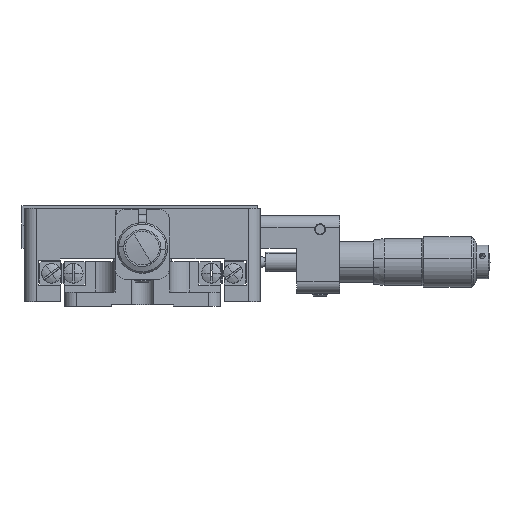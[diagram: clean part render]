
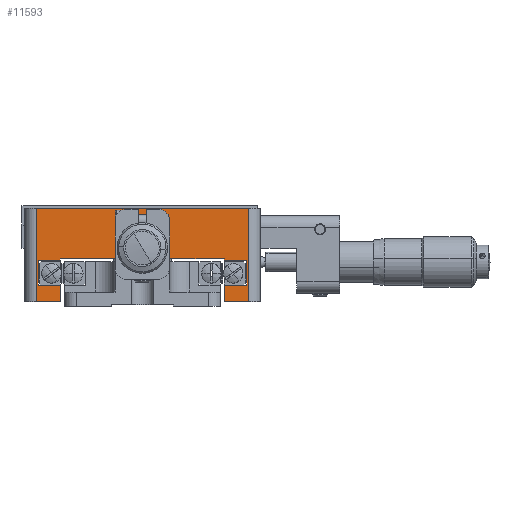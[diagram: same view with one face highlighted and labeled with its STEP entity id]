
A CAD part, left-side view. The second image highlights one B-rep face of the part: STEP entity #11593.
In plain terms, the highlighted planar face has unit normal (-1, 0, 0).
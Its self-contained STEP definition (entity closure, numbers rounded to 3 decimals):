
#26 = DIRECTION ( 'NONE',  ( 0., -1., 0. ) ) ;
#35 = ORIENTED_EDGE ( 'NONE', *, *, #8875, .T. ) ;
#280 = VERTEX_POINT ( 'NONE', #8238 ) ;
#323 = LINE ( 'NONE', #16755, #16178 ) ;
#490 = EDGE_CURVE ( 'NONE', #280, #25579, #25245, .T. ) ;
#604 = VECTOR ( 'NONE', #15052, 1000. ) ;
#620 = ORIENTED_EDGE ( 'NONE', *, *, #20196, .T. ) ;
#1090 = CARTESIAN_POINT ( 'NONE',  ( -29.221, 26.75, 11.8 ) ) ;
#1104 = EDGE_CURVE ( 'NONE', #24790, #21348, #24862, .T. ) ;
#1306 = CARTESIAN_POINT ( 'NONE',  ( -29.221, -21., 1.2 ) ) ;
#1473 = CARTESIAN_POINT ( 'NONE',  ( -29.221, -26.75, 5.5 ) ) ;
#1475 = DIRECTION ( 'NONE',  ( 0., 0., -1. ) ) ;
#3067 = EDGE_CURVE ( 'NONE', #9695, #18296, #11140, .T. ) ;
#3127 = CARTESIAN_POINT ( 'NONE',  ( -29.221, -21., 11.8 ) ) ;
#3132 = CARTESIAN_POINT ( 'NONE',  ( -29.221, -21., 11.8 ) ) ;
#3246 = CARTESIAN_POINT ( 'NONE',  ( -29.221, -27.25, 25.2 ) ) ;
#3430 = CARTESIAN_POINT ( 'NONE',  ( -29.221, 21., 12.2 ) ) ;
#3615 = CARTESIAN_POINT ( 'NONE',  ( -29.221, -27.25, 1.2 ) ) ;
#3642 = DIRECTION ( 'NONE',  ( 0., 0., -1. ) ) ;
#4261 = VECTOR ( 'NONE', #11872, 1000. ) ;
#4283 = ORIENTED_EDGE ( 'NONE', *, *, #8874, .T. ) ;
#4521 = LINE ( 'NONE', #20779, #7451 ) ;
#4595 = AXIS2_PLACEMENT_3D ( 'NONE', #26224, #13840, #1475 ) ;
#4684 = VECTOR ( 'NONE', #17058, 1000. ) ;
#4790 = VERTEX_POINT ( 'NONE', #18890 ) ;
#5057 = DIRECTION ( 'NONE',  ( 0., 0., 1. ) ) ;
#5174 = CARTESIAN_POINT ( 'NONE',  ( -29.221, 26.75, 5.5 ) ) ;
#5241 = CARTESIAN_POINT ( 'NONE',  ( -29.221, 21., 5.5 ) ) ;
#5434 = VERTEX_POINT ( 'NONE', #21303 ) ;
#5665 = ORIENTED_EDGE ( 'NONE', *, *, #22837, .T. ) ;
#5784 = ORIENTED_EDGE ( 'NONE', *, *, #3067, .T. ) ;
#6315 = EDGE_CURVE ( 'NONE', #25579, #17515, #23720, .T. ) ;
#6996 = ORIENTED_EDGE ( 'NONE', *, *, #23834, .T. ) ;
#7410 = ORIENTED_EDGE ( 'NONE', *, *, #19365, .F. ) ;
#7451 = VECTOR ( 'NONE', #20896, 1000. ) ;
#7753 = ORIENTED_EDGE ( 'NONE', *, *, #26045, .T. ) ;
#8027 = EDGE_CURVE ( 'NONE', #17152, #14904, #17451, .T. ) ;
#8238 = CARTESIAN_POINT ( 'NONE',  ( -29.221, 26.75, 5.5 ) ) ;
#8311 = LINE ( 'NONE', #15098, #13154 ) ;
#8715 = VECTOR ( 'NONE', #18887, 1000. ) ;
#8727 = ORIENTED_EDGE ( 'NONE', *, *, #22939, .T. ) ;
#8831 = VECTOR ( 'NONE', #17574, 1000. ) ;
#8874 = EDGE_CURVE ( 'NONE', #17515, #17152, #4521, .T. ) ;
#8875 = EDGE_CURVE ( 'NONE', #14904, #11188, #13578, .T. ) ;
#9360 = VECTOR ( 'NONE', #5057, 1000. ) ;
#9695 = VERTEX_POINT ( 'NONE', #3615 ) ;
#9819 = VERTEX_POINT ( 'NONE', #18280 ) ;
#10155 = ORIENTED_EDGE ( 'NONE', *, *, #490, .T. ) ;
#10340 = CARTESIAN_POINT ( 'NONE',  ( -29.221, 27.25, 25.2 ) ) ;
#10553 = ORIENTED_EDGE ( 'NONE', *, *, #16087, .T. ) ;
#10924 = CARTESIAN_POINT ( 'NONE',  ( -29.221, 27.25, 1.2 ) ) ;
#11140 = LINE ( 'NONE', #13622, #4684 ) ;
#11188 = VERTEX_POINT ( 'NONE', #3127 ) ;
#11410 = VECTOR ( 'NONE', #19131, 1000. ) ;
#11593 = ADVANCED_FACE ( 'NONE', ( #21727, #22390 ), #19987, .F. ) ;
#11872 = DIRECTION ( 'NONE',  ( 0., -1., 0. ) ) ;
#11983 = CARTESIAN_POINT ( 'NONE',  ( -29.221, -21., 12.2 ) ) ;
#12241 = CARTESIAN_POINT ( 'NONE',  ( -29.221, -21., 12.2 ) ) ;
#12362 = VECTOR ( 'NONE', #3642, 1000. ) ;
#12638 = VECTOR ( 'NONE', #20943, 1000. ) ;
#12748 = VERTEX_POINT ( 'NONE', #1473 ) ;
#12922 = ORIENTED_EDGE ( 'NONE', *, *, #1104, .T. ) ;
#12932 = CARTESIAN_POINT ( 'NONE',  ( -29.221, -26.75, 5.5 ) ) ;
#13154 = VECTOR ( 'NONE', #17166, 1000. ) ;
#13578 = LINE ( 'NONE', #3132, #12638 ) ;
#13622 = CARTESIAN_POINT ( 'NONE',  ( -29.221, -27.25, 25.2 ) ) ;
#13681 = CARTESIAN_POINT ( 'NONE',  ( -29.221, 26.75, 11.8 ) ) ;
#13840 = DIRECTION ( 'NONE',  ( 1., 0., 0. ) ) ;
#13983 = AXIS2_PLACEMENT_3D ( 'NONE', #19292, #20299, #19781 ) ;
#14332 = CARTESIAN_POINT ( 'NONE',  ( -29.221, 21., 1.2 ) ) ;
#14696 = CARTESIAN_POINT ( 'NONE',  ( -29.221, 0., 15. ) ) ;
#14904 = VERTEX_POINT ( 'NONE', #12241 ) ;
#15052 = DIRECTION ( 'NONE',  ( 0., 0., -1. ) ) ;
#15098 = CARTESIAN_POINT ( 'NONE',  ( -29.221, 21., 5.5 ) ) ;
#15138 = DIRECTION ( 'NONE',  ( 0., 0., -1. ) ) ;
#15228 = DIRECTION ( 'NONE',  ( 1., 0., 0. ) ) ;
#16087 = EDGE_CURVE ( 'NONE', #12748, #26328, #24162, .T. ) ;
#16113 = VERTEX_POINT ( 'NONE', #17730 ) ;
#16178 = VECTOR ( 'NONE', #16562, 1000. ) ;
#16345 = VECTOR ( 'NONE', #21237, 1000. ) ;
#16347 = CARTESIAN_POINT ( 'NONE',  ( -29.221, -21., 5.5 ) ) ;
#16486 = CIRCLE ( 'NONE', #22783, 1.5 ) ;
#16562 = DIRECTION ( 'NONE',  ( 0., 0., 1. ) ) ;
#16755 = CARTESIAN_POINT ( 'NONE',  ( -29.221, 21., 1.2 ) ) ;
#17058 = DIRECTION ( 'NONE',  ( 0., 0., 1. ) ) ;
#17152 = VERTEX_POINT ( 'NONE', #3430 ) ;
#17166 = DIRECTION ( 'NONE',  ( 0., 1., 0. ) ) ;
#17270 = DIRECTION ( 'NONE',  ( 0., 1., 0. ) ) ;
#17451 = LINE ( 'NONE', #11983, #4261 ) ;
#17515 = VERTEX_POINT ( 'NONE', #24414 ) ;
#17574 = DIRECTION ( 'NONE',  ( 0., -1., 0. ) ) ;
#17730 = CARTESIAN_POINT ( 'NONE',  ( -29.221, -21., 1.2 ) ) ;
#17885 = LINE ( 'NONE', #1306, #12362 ) ;
#18003 = VECTOR ( 'NONE', #17270, 1000. ) ;
#18280 = CARTESIAN_POINT ( 'NONE',  ( -29.221, 0., 13.5 ) ) ;
#18296 = VERTEX_POINT ( 'NONE', #3246 ) ;
#18569 = CARTESIAN_POINT ( 'NONE',  ( -29.221, -26.75, 5.5 ) ) ;
#18696 = EDGE_CURVE ( 'NONE', #26328, #16113, #17885, .T. ) ;
#18716 = VERTEX_POINT ( 'NONE', #5241 ) ;
#18788 = ORIENTED_EDGE ( 'NONE', *, *, #22764, .T. ) ;
#18887 = DIRECTION ( 'NONE',  ( 0., -1., 0. ) ) ;
#18890 = CARTESIAN_POINT ( 'NONE',  ( -29.221, -26.75, 11.8 ) ) ;
#18916 = CARTESIAN_POINT ( 'NONE',  ( -29.221, -26.75, 11.8 ) ) ;
#19131 = DIRECTION ( 'NONE',  ( 0., -1., 0. ) ) ;
#19292 = CARTESIAN_POINT ( 'NONE',  ( -29.221, -30.25, 25.2 ) ) ;
#19365 = EDGE_CURVE ( 'NONE', #24790, #18296, #21802, .T. ) ;
#19561 = VECTOR ( 'NONE', #26, 1000. ) ;
#19619 = ORIENTED_EDGE ( 'NONE', *, *, #18696, .T. ) ;
#19648 = DIRECTION ( 'NONE',  ( 0., 0., -1. ) ) ;
#19687 = LINE ( 'NONE', #18916, #8715 ) ;
#19781 = DIRECTION ( 'NONE',  ( 0., 0., -1. ) ) ;
#19987 = PLANE ( 'NONE',  #13983 ) ;
#20196 = EDGE_CURVE ( 'NONE', #21348, #21250, #23062, .T. ) ;
#20218 = CARTESIAN_POINT ( 'NONE',  ( -29.221, 27.25, 25.2 ) ) ;
#20291 = VECTOR ( 'NONE', #19648, 1000. ) ;
#20299 = DIRECTION ( 'NONE',  ( 1., 0., 0. ) ) ;
#20413 = EDGE_LOOP ( 'NONE', ( #8727, #7753 ) ) ;
#20498 = ORIENTED_EDGE ( 'NONE', *, *, #8027, .T. ) ;
#20779 = CARTESIAN_POINT ( 'NONE',  ( -29.221, 21., 11.8 ) ) ;
#20896 = DIRECTION ( 'NONE',  ( 0., 0., 1. ) ) ;
#20943 = DIRECTION ( 'NONE',  ( 0., 0., -1. ) ) ;
#21209 = EDGE_LOOP ( 'NONE', ( #7410, #12922, #620, #18788, #25638, #10155, #24216, #4283, #20498, #35, #5665, #6996, #10553, #19619, #26129, #5784 ) ) ;
#21237 = DIRECTION ( 'NONE',  ( 0., -1., 0. ) ) ;
#21250 = VERTEX_POINT ( 'NONE', #14332 ) ;
#21303 = CARTESIAN_POINT ( 'NONE',  ( -29.221, 0., 16.5 ) ) ;
#21348 = VERTEX_POINT ( 'NONE', #10924 ) ;
#21727 = FACE_BOUND ( 'NONE', #20413, .T. ) ;
#21802 = LINE ( 'NONE', #22060, #16345 ) ;
#21887 = CARTESIAN_POINT ( 'NONE',  ( -29.221, -30.25, 1.2 ) ) ;
#22060 = CARTESIAN_POINT ( 'NONE',  ( -29.221, -30.25, 25.2 ) ) ;
#22390 = FACE_OUTER_BOUND ( 'NONE', #21209, .T. ) ;
#22564 = LINE ( 'NONE', #12932, #604 ) ;
#22764 = EDGE_CURVE ( 'NONE', #21250, #18716, #323, .T. ) ;
#22783 = AXIS2_PLACEMENT_3D ( 'NONE', #14696, #15228, #15138 ) ;
#22837 = EDGE_CURVE ( 'NONE', #11188, #4790, #19687, .T. ) ;
#22939 = EDGE_CURVE ( 'NONE', #9819, #5434, #16486, .T. ) ;
#23062 = LINE ( 'NONE', #21887, #11410 ) ;
#23720 = LINE ( 'NONE', #1090, #19561 ) ;
#23724 = CARTESIAN_POINT ( 'NONE',  ( -29.221, -30.25, 1.2 ) ) ;
#23834 = EDGE_CURVE ( 'NONE', #4790, #12748, #22564, .T. ) ;
#24162 = LINE ( 'NONE', #18569, #18003 ) ;
#24216 = ORIENTED_EDGE ( 'NONE', *, *, #6315, .T. ) ;
#24414 = CARTESIAN_POINT ( 'NONE',  ( -29.221, 21., 11.8 ) ) ;
#24419 = EDGE_CURVE ( 'NONE', #18716, #280, #8311, .T. ) ;
#24790 = VERTEX_POINT ( 'NONE', #10340 ) ;
#24862 = LINE ( 'NONE', #20218, #20291 ) ;
#25055 = CIRCLE ( 'NONE', #4595, 1.5 ) ;
#25245 = LINE ( 'NONE', #5174, #9360 ) ;
#25339 = LINE ( 'NONE', #23724, #8831 ) ;
#25579 = VERTEX_POINT ( 'NONE', #13681 ) ;
#25638 = ORIENTED_EDGE ( 'NONE', *, *, #24419, .T. ) ;
#26045 = EDGE_CURVE ( 'NONE', #5434, #9819, #25055, .T. ) ;
#26129 = ORIENTED_EDGE ( 'NONE', *, *, #26649, .T. ) ;
#26224 = CARTESIAN_POINT ( 'NONE',  ( -29.221, 0., 15. ) ) ;
#26328 = VERTEX_POINT ( 'NONE', #16347 ) ;
#26649 = EDGE_CURVE ( 'NONE', #16113, #9695, #25339, .T. ) ;
